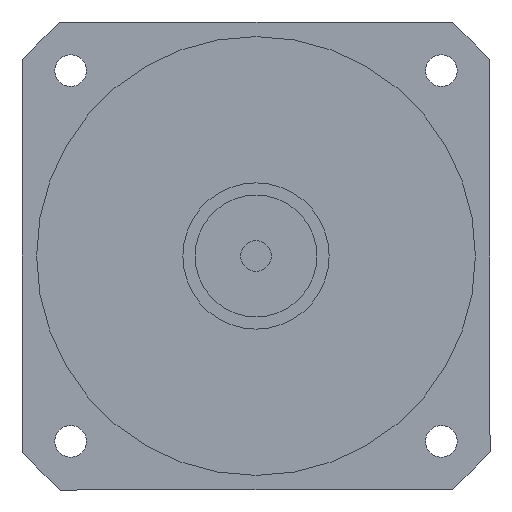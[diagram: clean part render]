
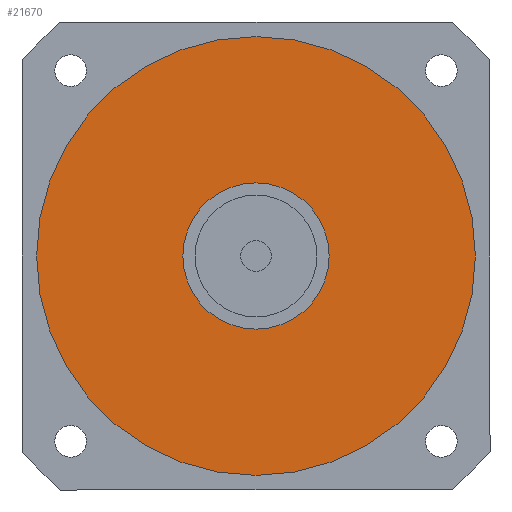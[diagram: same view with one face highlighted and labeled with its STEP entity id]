
A CAD part, left-side view. The second image highlights one B-rep face of the part: STEP entity #21670.
In plain terms, the highlighted planar face has unit normal (-1, 0, 0) as drawn and (0, 0, -1) by its records, which use the part's own axes.
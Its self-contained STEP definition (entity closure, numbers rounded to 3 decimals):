
#21090=CARTESIAN_POINT('',(-90.,0.,-97.5));
#21100=VERTEX_POINT('',#21090);
#21190=CARTESIAN_POINT('',(90.,0.,-97.5));
#21200=VERTEX_POINT('',#21190);
#21230=CARTESIAN_POINT('',(0.,0.,
-97.5));
#21240=DIRECTION('',(0.,0.,1.));
#21250=DIRECTION('',(0.,-1.,0.));
#21260=AXIS2_PLACEMENT_3D('',#21230,#21240,#21250);
#21270=CIRCLE('',#21260,90.);
#21280=CARTESIAN_POINT('',(0.,-90.,-97.5));
#21290=VERTEX_POINT('',#21280);
#21300=EDGE_CURVE('',#21290,#21200,#21270,.T.);
#21320=EDGE_CURVE('',#21100,#21290,#21270,.T.);
#21370=CARTESIAN_POINT('',(0.,0.,
-97.5));
#21380=DIRECTION('',(0.,0.,1.));
#21390=DIRECTION('',(-1.,0.,0.));
#21400=AXIS2_PLACEMENT_3D('',#21370,#21380,#21390);
#21410=PLANE('',#21400);
#21420=ORIENTED_EDGE('',*,*,#21300,.F.);
#21430=EDGE_CURVE('',#21200,#21100,#21270,.T.);
#21440=ORIENTED_EDGE('',*,*,#21430,.F.);
#21450=ORIENTED_EDGE('',*,*,#21320,.F.);
#21460=EDGE_LOOP('',(#21450,#21440,#21420));
#21470=FACE_OUTER_BOUND('',#21460,.T.);
#21480=CARTESIAN_POINT('',(0.,0.,
-97.5));
#21490=DIRECTION('',(0.,0.,1.));
#21500=DIRECTION('',(0.,-1.,0.));
#21510=AXIS2_PLACEMENT_3D('',#21480,#21490,#21500);
#21520=CIRCLE('',#21510,30.);
#21530=CARTESIAN_POINT('',(30.,0.,-97.5));
#21540=VERTEX_POINT('',#21530);
#21550=CARTESIAN_POINT('',(-30.,0.,-97.5));
#21560=VERTEX_POINT('',#21550);
#21570=EDGE_CURVE('',#21540,#21560,#21520,.T.);
#21580=ORIENTED_EDGE('',*,*,#21570,.T.);
#21590=CARTESIAN_POINT('',(0.,-30.,-97.5));
#21600=VERTEX_POINT('',#21590);
#21610=EDGE_CURVE('',#21600,#21540,#21520,.T.);
#21620=ORIENTED_EDGE('',*,*,#21610,.T.);
#21630=EDGE_CURVE('',#21560,#21600,#21520,.T.);
#21640=ORIENTED_EDGE('',*,*,#21630,.T.);
#21650=EDGE_LOOP('',(#21640,#21620,#21580));
#21660=FACE_BOUND('',#21650,.T.);
#21670=ADVANCED_FACE('',(#21470,#21660),#21410,.F.);
